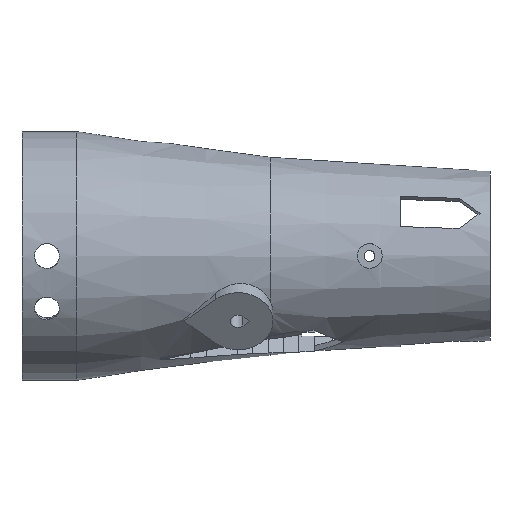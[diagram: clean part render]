
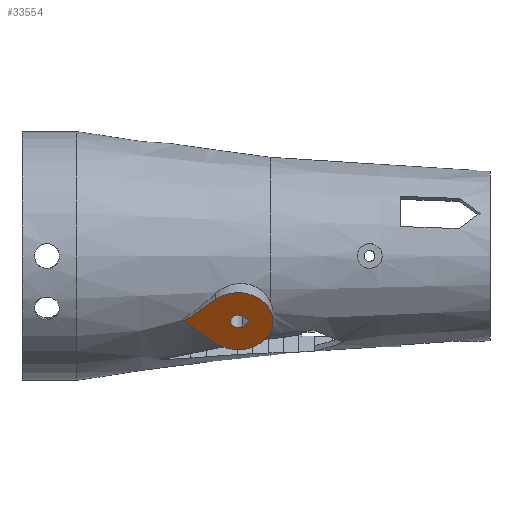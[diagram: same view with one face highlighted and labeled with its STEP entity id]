
A CAD part, front view. The second image highlights one B-rep face of the part: STEP entity #33554.
In plain terms, the highlighted planar face has unit normal (0, -0.819, -0.574).
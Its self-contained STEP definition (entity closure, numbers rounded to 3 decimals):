
#22079 = CYLINDRICAL_SURFACE('',#22080,7.);
#22080 = AXIS2_PLACEMENT_3D('',#22081,#22082,#22083);
#22081 = CARTESIAN_POINT('',(413.4,-10.526,-7.37));
#22082 = DIRECTION('',(-0.,-0.819,-0.574));
#22083 = DIRECTION('',(-0.,-0.574,0.819));
#32891 = EDGE_CURVE('',#32892,#32894,#32896,.T.);
#32892 = VERTEX_POINT('',#32893);
#32893 = CARTESIAN_POINT('',(408.9,-21.793,
    -8.714));
#32894 = VERTEX_POINT('',#32895);
#32895 = CARTESIAN_POINT('',(408.9,-15.642,
    -17.499));
#32896 = SURFACE_CURVE('',#32897,(#32902,#32909),.PCURVE_S1.);
#32897 = CIRCLE('',#32898,7.);
#32898 = AXIS2_PLACEMENT_3D('',#32899,#32900,#32901);
#32899 = CARTESIAN_POINT('',(413.4,-18.718,-13.106));
#32900 = DIRECTION('',(0.,0.819,0.574
    ));
#32901 = DIRECTION('',(-0.643,-0.439,0.628));
#32902 = PCURVE('',#22079,#32903);
#32903 = DEFINITIONAL_REPRESENTATION('',(#32904),#32908);
#32904 = LINE('',#32905,#32906);
#32905 = CARTESIAN_POINT('',(-5.585,10.));
#32906 = VECTOR('',#32907,1.);
#32907 = DIRECTION('',(-1.,0.));
#32908 = ( GEOMETRIC_REPRESENTATION_CONTEXT(2) 
PARAMETRIC_REPRESENTATION_CONTEXT() REPRESENTATION_CONTEXT('2D SPACE',''
  ) );
#32909 = PCURVE('',#32910,#32915);
#32910 = PLANE('',#32911);
#32911 = AXIS2_PLACEMENT_3D('',#32912,#32913,#32914);
#32912 = CARTESIAN_POINT('',(413.4,-18.718,-13.106));
#32913 = DIRECTION('',(-0.,-0.819,-0.574));
#32914 = DIRECTION('',(0.,0.574,-0.819));
#32915 = DEFINITIONAL_REPRESENTATION('',(#32916),#32924);
#32916 = ( BOUNDED_CURVE() B_SPLINE_CURVE(2,(#32917,#32918,#32919,#32920
    ,#32921,#32922,#32923),.UNSPECIFIED.,.T.,.F.) 
B_SPLINE_CURVE_WITH_KNOTS((1,2,2,2,2,1),(-2.094,0.,
    2.094,4.189,6.283,8.378),
.UNSPECIFIED.) CURVE() GEOMETRIC_REPRESENTATION_ITEM() 
RATIONAL_B_SPLINE_CURVE((1.,0.5,1.,0.5,1.,0.5,1.)) REPRESENTATION_ITEM(
  '') );
#32917 = CARTESIAN_POINT('',(-5.362,-4.5));
#32918 = CARTESIAN_POINT('',(-13.156,4.788));
#32919 = CARTESIAN_POINT('',(-1.216,6.894));
#32920 = CARTESIAN_POINT('',(10.725,8.999));
#32921 = CARTESIAN_POINT('',(6.578,-2.394));
#32922 = CARTESIAN_POINT('',(2.431,-13.787));
#32923 = CARTESIAN_POINT('',(-5.362,-4.5));
#32924 = ( GEOMETRIC_REPRESENTATION_CONTEXT(2) 
PARAMETRIC_REPRESENTATION_CONTEXT() REPRESENTATION_CONTEXT('2D SPACE',''
  ) );
#32941 = PLANE('',#32942);
#32942 = AXIS2_PLACEMENT_3D('',#32943,#32944,#32945);
#32943 = CARTESIAN_POINT('',(402.51,-10.526,
    -7.37));
#32944 = DIRECTION('',(0.643,0.439,-0.628));
#32945 = DIRECTION('',(-0.766,0.369,-0.527));
#33409 = PLANE('',#33410);
#33410 = AXIS2_PLACEMENT_3D('',#33411,#33412,#33413);
#33411 = CARTESIAN_POINT('',(408.9,-7.45,
    -11.763));
#33412 = DIRECTION('',(0.643,-0.439,0.628));
#33413 = DIRECTION('',(0.766,0.369,-0.527));
#33456 = EDGE_CURVE('',#32894,#33457,#33459,.T.);
#33457 = VERTEX_POINT('',#33458);
#33458 = CARTESIAN_POINT('',(402.51,-18.718,
    -13.106));
#33459 = SURFACE_CURVE('',#33460,(#33464,#33471),.PCURVE_S1.);
#33460 = LINE('',#33461,#33462);
#33461 = CARTESIAN_POINT('',(408.9,-15.642,
    -17.499));
#33462 = VECTOR('',#33463,1.);
#33463 = DIRECTION('',(-0.766,-0.369,0.527));
#33464 = PCURVE('',#33409,#33465);
#33465 = DEFINITIONAL_REPRESENTATION('',(#33466),#33470);
#33466 = LINE('',#33467,#33468);
#33467 = CARTESIAN_POINT('',(0.,-10.));
#33468 = VECTOR('',#33469,1.);
#33469 = DIRECTION('',(-1.,0.));
#33470 = ( GEOMETRIC_REPRESENTATION_CONTEXT(2) 
PARAMETRIC_REPRESENTATION_CONTEXT() REPRESENTATION_CONTEXT('2D SPACE',''
  ) );
#33471 = PCURVE('',#32910,#33472);
#33472 = DEFINITIONAL_REPRESENTATION('',(#33473),#33477);
#33473 = LINE('',#33474,#33475);
#33474 = CARTESIAN_POINT('',(5.362,-4.5));
#33475 = VECTOR('',#33476,1.);
#33476 = DIRECTION('',(-0.643,-0.766));
#33477 = ( GEOMETRIC_REPRESENTATION_CONTEXT(2) 
PARAMETRIC_REPRESENTATION_CONTEXT() REPRESENTATION_CONTEXT('2D SPACE',''
  ) );
#33534 = EDGE_CURVE('',#33457,#32892,#33535,.T.);
#33535 = SURFACE_CURVE('',#33536,(#33540,#33547),.PCURVE_S1.);
#33536 = LINE('',#33537,#33538);
#33537 = CARTESIAN_POINT('',(402.51,-18.718,
    -13.106));
#33538 = VECTOR('',#33539,1.);
#33539 = DIRECTION('',(0.766,-0.369,0.527));
#33540 = PCURVE('',#32941,#33541);
#33541 = DEFINITIONAL_REPRESENTATION('',(#33542),#33546);
#33542 = LINE('',#33543,#33544);
#33543 = CARTESIAN_POINT('',(0.,-10.));
#33544 = VECTOR('',#33545,1.);
#33545 = DIRECTION('',(-1.,0.));
#33546 = ( GEOMETRIC_REPRESENTATION_CONTEXT(2) 
PARAMETRIC_REPRESENTATION_CONTEXT() REPRESENTATION_CONTEXT('2D SPACE',''
  ) );
#33547 = PCURVE('',#32910,#33548);
#33548 = DEFINITIONAL_REPRESENTATION('',(#33549),#33553);
#33549 = LINE('',#33550,#33551);
#33550 = CARTESIAN_POINT('',(-0.,-10.89));
#33551 = VECTOR('',#33552,1.);
#33552 = DIRECTION('',(-0.643,0.766));
#33553 = ( GEOMETRIC_REPRESENTATION_CONTEXT(2) 
PARAMETRIC_REPRESENTATION_CONTEXT() REPRESENTATION_CONTEXT('2D SPACE',''
  ) );
#33554 = ADVANCED_FACE('',(#33555,#33560),#32910,.T.);
#33555 = FACE_BOUND('',#33556,.F.);
#33556 = EDGE_LOOP('',(#33557,#33558,#33559));
#33557 = ORIENTED_EDGE('',*,*,#32891,.T.);
#33558 = ORIENTED_EDGE('',*,*,#33456,.T.);
#33559 = ORIENTED_EDGE('',*,*,#33534,.T.);
#33560 = FACE_BOUND('',#33561,.F.);
#33561 = EDGE_LOOP('',(#33562,#33597,#33624));
#33562 = ORIENTED_EDGE('',*,*,#33563,.F.);
#33563 = EDGE_CURVE('',#33564,#33566,#33568,.T.);
#33564 = VERTEX_POINT('',#33565);
#33565 = CARTESIAN_POINT('',(414.38,-18.048,
    -14.063));
#33566 = VERTEX_POINT('',#33567);
#33567 = CARTESIAN_POINT('',(414.38,-19.388,
    -12.149));
#33568 = SURFACE_CURVE('',#33569,(#33574,#33585),.PCURVE_S1.);
#33569 = CIRCLE('',#33570,1.525);
#33570 = AXIS2_PLACEMENT_3D('',#33571,#33572,#33573);
#33571 = CARTESIAN_POINT('',(413.4,-18.718,-13.106));
#33572 = DIRECTION('',(0.,0.819,0.574));
#33573 = DIRECTION('',(0.643,0.439,-0.628));
#33574 = PCURVE('',#32910,#33575);
#33575 = DEFINITIONAL_REPRESENTATION('',(#33576),#33584);
#33576 = ( BOUNDED_CURVE() B_SPLINE_CURVE(2,(#33577,#33578,#33579,#33580
    ,#33581,#33582,#33583),.UNSPECIFIED.,.T.,.F.) 
B_SPLINE_CURVE_WITH_KNOTS((1,2,2,2,2,1),(-2.094,0.,
    2.094,4.189,6.283,8.378),
.UNSPECIFIED.) CURVE() GEOMETRIC_REPRESENTATION_ITEM() 
RATIONAL_B_SPLINE_CURVE((1.,0.5,1.,0.5,1.,0.5,1.)) REPRESENTATION_ITEM(
  '') );
#33577 = CARTESIAN_POINT('',(1.168,0.98));
#33578 = CARTESIAN_POINT('',(2.866,-1.043));
#33579 = CARTESIAN_POINT('',(0.265,-1.502));
#33580 = CARTESIAN_POINT('',(-2.336,-1.961));
#33581 = CARTESIAN_POINT('',(-1.433,0.522));
#33582 = CARTESIAN_POINT('',(-0.53,3.004));
#33583 = CARTESIAN_POINT('',(1.168,0.98));
#33584 = ( GEOMETRIC_REPRESENTATION_CONTEXT(2) 
PARAMETRIC_REPRESENTATION_CONTEXT() REPRESENTATION_CONTEXT('2D SPACE',''
  ) );
#33585 = PCURVE('',#33586,#33591);
#33586 = CYLINDRICAL_SURFACE('',#33587,1.525);
#33587 = AXIS2_PLACEMENT_3D('',#33588,#33589,#33590);
#33588 = CARTESIAN_POINT('',(413.4,-4.096,-2.868));
#33589 = DIRECTION('',(-0.,-0.819,-0.574));
#33590 = DIRECTION('',(-0.,-0.574,0.819));
#33591 = DEFINITIONAL_REPRESENTATION('',(#33592),#33596);
#33592 = LINE('',#33593,#33594);
#33593 = CARTESIAN_POINT('',(-2.443,17.85));
#33594 = VECTOR('',#33595,1.);
#33595 = DIRECTION('',(-1.,-0.));
#33596 = ( GEOMETRIC_REPRESENTATION_CONTEXT(2) 
PARAMETRIC_REPRESENTATION_CONTEXT() REPRESENTATION_CONTEXT('2D SPACE',''
  ) );
#33597 = ORIENTED_EDGE('',*,*,#33598,.T.);
#33598 = EDGE_CURVE('',#33564,#33599,#33601,.T.);
#33599 = VERTEX_POINT('',#33600);
#33600 = CARTESIAN_POINT('',(415.772,-18.718,
    -13.106));
#33601 = SURFACE_CURVE('',#33602,(#33606,#33613),.PCURVE_S1.);
#33602 = LINE('',#33603,#33604);
#33603 = CARTESIAN_POINT('',(414.38,-18.048,
    -14.063));
#33604 = VECTOR('',#33605,1.);
#33605 = DIRECTION('',(0.766,-0.369,0.527));
#33606 = PCURVE('',#32910,#33607);
#33607 = DEFINITIONAL_REPRESENTATION('',(#33608),#33612);
#33608 = LINE('',#33609,#33610);
#33609 = CARTESIAN_POINT('',(1.168,0.98));
#33610 = VECTOR('',#33611,1.);
#33611 = DIRECTION('',(-0.643,0.766));
#33612 = ( GEOMETRIC_REPRESENTATION_CONTEXT(2) 
PARAMETRIC_REPRESENTATION_CONTEXT() REPRESENTATION_CONTEXT('2D SPACE',''
  ) );
#33613 = PCURVE('',#33614,#33619);
#33614 = PLANE('',#33615);
#33615 = AXIS2_PLACEMENT_3D('',#33616,#33617,#33618);
#33616 = CARTESIAN_POINT('',(414.38,-3.426,
    -3.825));
#33617 = DIRECTION('',(0.643,0.439,-0.628));
#33618 = DIRECTION('',(-0.766,0.369,-0.527));
#33619 = DEFINITIONAL_REPRESENTATION('',(#33620),#33623);
#33620 = B_SPLINE_CURVE_WITH_KNOTS('',1,(#33621,#33622),.UNSPECIFIED.,
  .F.,.F.,(2,2),(0.,1.817),
  .PIECEWISE_BEZIER_KNOTS.);
#33621 = CARTESIAN_POINT('',(0.,-17.85));
#33622 = CARTESIAN_POINT('',(-1.817,-17.85));
#33623 = ( GEOMETRIC_REPRESENTATION_CONTEXT(2) 
PARAMETRIC_REPRESENTATION_CONTEXT() REPRESENTATION_CONTEXT('2D SPACE',''
  ) );
#33624 = ORIENTED_EDGE('',*,*,#33625,.T.);
#33625 = EDGE_CURVE('',#33599,#33566,#33626,.T.);
#33626 = SURFACE_CURVE('',#33627,(#33631,#33638),.PCURVE_S1.);
#33627 = LINE('',#33628,#33629);
#33628 = CARTESIAN_POINT('',(415.076,-19.053,
    -12.628));
#33629 = VECTOR('',#33630,1.);
#33630 = DIRECTION('',(-0.766,-0.369,0.527));
#33631 = PCURVE('',#32910,#33632);
#33632 = DEFINITIONAL_REPRESENTATION('',(#33633),#33637);
#33633 = LINE('',#33634,#33635);
#33634 = CARTESIAN_POINT('',(-0.584,1.676));
#33635 = VECTOR('',#33636,1.);
#33636 = DIRECTION('',(-0.643,-0.766));
#33637 = ( GEOMETRIC_REPRESENTATION_CONTEXT(2) 
PARAMETRIC_REPRESENTATION_CONTEXT() REPRESENTATION_CONTEXT('2D SPACE',''
  ) );
#33638 = PCURVE('',#33639,#33644);
#33639 = PLANE('',#33640);
#33640 = AXIS2_PLACEMENT_3D('',#33641,#33642,#33643);
#33641 = CARTESIAN_POINT('',(415.772,-4.096,
    -2.868));
#33642 = DIRECTION('',(0.643,-0.439,0.628));
#33643 = DIRECTION('',(0.766,0.369,-0.527));
#33644 = DEFINITIONAL_REPRESENTATION('',(#33645),#33648);
#33645 = B_SPLINE_CURVE_WITH_KNOTS('',1,(#33646,#33647),.UNSPECIFIED.,
  .F.,.F.,(2,2),(-0.909,0.909),
  .PIECEWISE_BEZIER_KNOTS.);
#33646 = CARTESIAN_POINT('',(0.,-17.85));
#33647 = CARTESIAN_POINT('',(-1.817,-17.85));
#33648 = ( GEOMETRIC_REPRESENTATION_CONTEXT(2) 
PARAMETRIC_REPRESENTATION_CONTEXT() REPRESENTATION_CONTEXT('2D SPACE',''
  ) );
